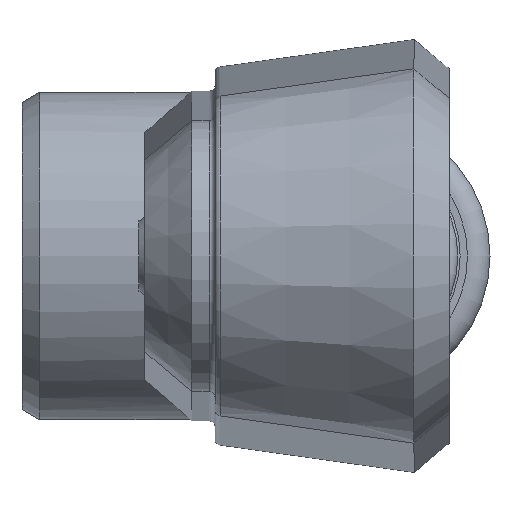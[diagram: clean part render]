
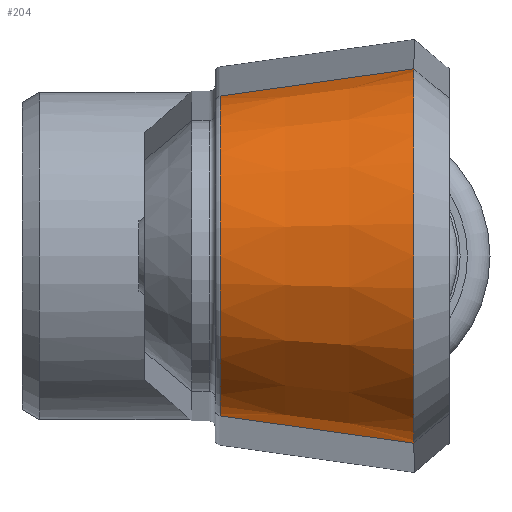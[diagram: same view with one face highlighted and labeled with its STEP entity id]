
A CAD part, front view. The second image highlights one B-rep face of the part: STEP entity #204.
In plain terms, the highlighted conical face has half-angle 8 degrees and reference radius 16 mm.
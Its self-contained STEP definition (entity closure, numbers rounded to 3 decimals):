
#204 = ADVANCED_FACE( '', ( #344 ), #345, .T. );
#344 = FACE_OUTER_BOUND( '', #611, .T. );
#345 = CONICAL_SURFACE( '', #612, 16., 0.14 );
#611 = EDGE_LOOP( '', ( #1004, #1005, #1006, #1007 ) );
#612 = AXIS2_PLACEMENT_3D( '', #1008, #1009, #1010 );
#1004 = ORIENTED_EDGE( '', *, *, #1520, .F. );
#1005 = ORIENTED_EDGE( '', *, *, #1503, .F. );
#1006 = ORIENTED_EDGE( '', *, *, #1521, .T. );
#1007 = ORIENTED_EDGE( '', *, *, #1517, .T. );
#1008 = CARTESIAN_POINT( '', ( 17.797, -125., 0. ) );
#1009 = DIRECTION( '', ( 1., 0., 0. ) );
#1010 = DIRECTION( '', ( 0., 0., -1. ) );
#1503 = EDGE_CURVE( '', #1779, #1781, #1782, .T. );
#1517 = EDGE_CURVE( '', #1790, #1805, #1807, .T. );
#1520 = EDGE_CURVE( '', #1781, #1805, #1810, .T. );
#1521 = EDGE_CURVE( '', #1779, #1790, #1811, .T. );
#1779 = VERTEX_POINT( '', #2242 );
#1781 = VERTEX_POINT( '', #2245 );
#1782 = B_SPLINE_CURVE_WITH_KNOTS( '', 3, ( #2246, #2247, #2248, #2249 ), .UNSPECIFIED., .F., .F., ( 4, 4 ), ( 0., 0.804 ), .UNSPECIFIED. );
#1790 = VERTEX_POINT( '', #2271 );
#1805 = VERTEX_POINT( '', #2310 );
#1807 = B_SPLINE_CURVE_WITH_KNOTS( '', 3, ( #2315, #2316, #2317, #2318 ), .UNSPECIFIED., .F., .F., ( 4, 4 ), ( 0., 1. ), .UNSPECIFIED. );
#1810 = CIRCLE( '', #2321, 13.672 );
#1811 = CIRCLE( '', #2322, 16. );
#2242 = CARTESIAN_POINT( '', ( 17.797, -125., -16. ) );
#2245 = CARTESIAN_POINT( '', ( 1.23, -125., -13.672 ) );
#2246 = CARTESIAN_POINT( '', ( 17.797, -125., -16. ) );
#2247 = CARTESIAN_POINT( '', ( 12.275, -125., -15.224 ) );
#2248 = CARTESIAN_POINT( '', ( 6.755, -125., -14.448 ) );
#2249 = CARTESIAN_POINT( '', ( 1.23, -125., -13.672 ) );
#2271 = CARTESIAN_POINT( '', ( 17.797, -125., 16. ) );
#2310 = CARTESIAN_POINT( '', ( 1.23, -125., 13.672 ) );
#2315 = CARTESIAN_POINT( '', ( 17.797, -125., 16. ) );
#2316 = CARTESIAN_POINT( '', ( 12.275, -125., 15.224 ) );
#2317 = CARTESIAN_POINT( '', ( 6.753, -125., 14.448 ) );
#2318 = CARTESIAN_POINT( '', ( 1.23, -125., 13.672 ) );
#2321 = AXIS2_PLACEMENT_3D( '', #2658, #2659, #2660 );
#2322 = AXIS2_PLACEMENT_3D( '', #2661, #2662, #2663 );
#2658 = CARTESIAN_POINT( '', ( 1.23, -125., 0. ) );
#2659 = DIRECTION( '', ( -1., 0., 0. ) );
#2660 = DIRECTION( '', ( 0., 0., 1. ) );
#2661 = CARTESIAN_POINT( '', ( 17.797, -125., 0. ) );
#2662 = DIRECTION( '', ( -1., 0., 0. ) );
#2663 = DIRECTION( '', ( 0., 0., 1. ) );
